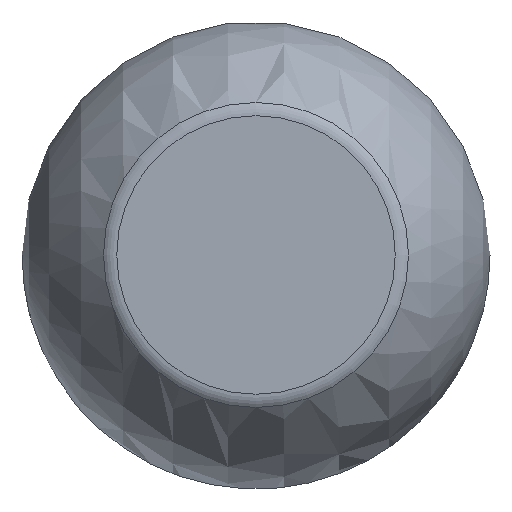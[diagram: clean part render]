
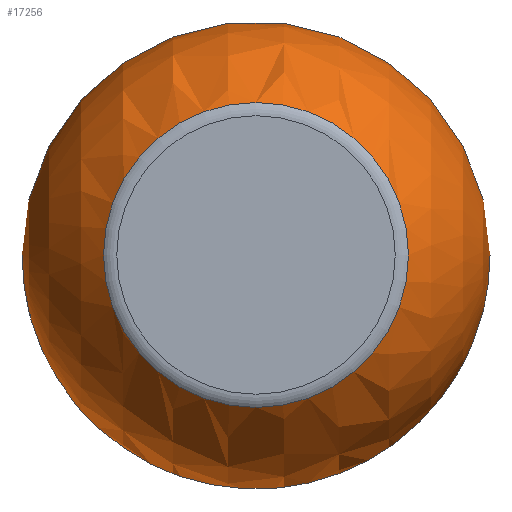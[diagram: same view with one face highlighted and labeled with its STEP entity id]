
A CAD part, top view. The second image highlights one B-rep face of the part: STEP entity #17256.
In plain terms, the highlighted spherical face has radius 18.326 mm.
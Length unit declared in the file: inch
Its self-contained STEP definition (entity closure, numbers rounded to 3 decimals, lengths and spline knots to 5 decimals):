
#73=SPHERICAL_SURFACE('',#18281,0.7215);
#3762=CIRCLE('',#18280,0.47012);
#3763=CIRCLE('',#18282,0.40377);
#3998=FACE_BOUND('',#5965,.T.);
#3999=FACE_BOUND('',#5966,.T.);
#5965=EDGE_LOOP('',(#15700));
#5966=EDGE_LOOP('',(#15701));
#8501=VERTEX_POINT('',#39165);
#8502=VERTEX_POINT('',#39168);
#10938=EDGE_CURVE('',#8501,#8501,#3762,.T.);
#10939=EDGE_CURVE('',#8502,#8502,#3763,.T.);
#15700=ORIENTED_EDGE('',*,*,#10938,.T.);
#15701=ORIENTED_EDGE('',*,*,#10939,.F.);
#17256=ADVANCED_FACE('',(#3998,#3999),#73,.T.);
#18280=AXIS2_PLACEMENT_3D('',#39166,#21227,#21228);
#18281=AXIS2_PLACEMENT_3D('',#39167,#21229,#21230);
#18282=AXIS2_PLACEMENT_3D('',#39169,#21231,#21232);
#21227=DIRECTION('center_axis',(1.,0.,0.));
#21228=DIRECTION('ref_axis',(0.,0.,-1.));
#21229=DIRECTION('center_axis',(0.,0.,1.));
#21230=DIRECTION('ref_axis',(1.,0.,0.));
#21231=DIRECTION('center_axis',(1.,0.,0.));
#21232=DIRECTION('ref_axis',(0.,0.,-1.));
#39165=CARTESIAN_POINT('',(0.01509,0.47012,0.));
#39166=CARTESIAN_POINT('Origin',(0.01509,0.,0.));
#39167=CARTESIAN_POINT('Origin',(0.5624,0.,0.));
#39168=CARTESIAN_POINT('',(1.16034,0.40377,0.));
#39169=CARTESIAN_POINT('Origin',(1.16034,0.,0.));
